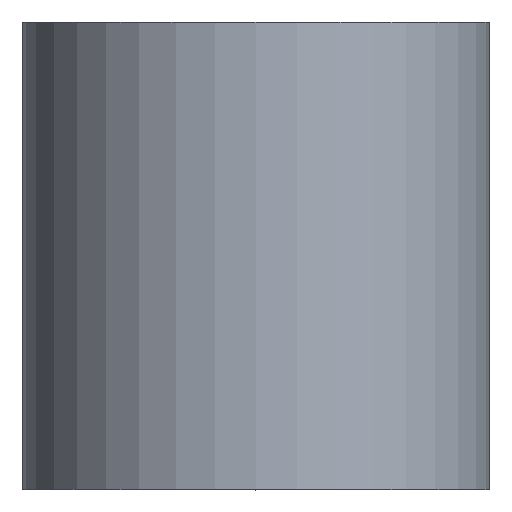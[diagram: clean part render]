
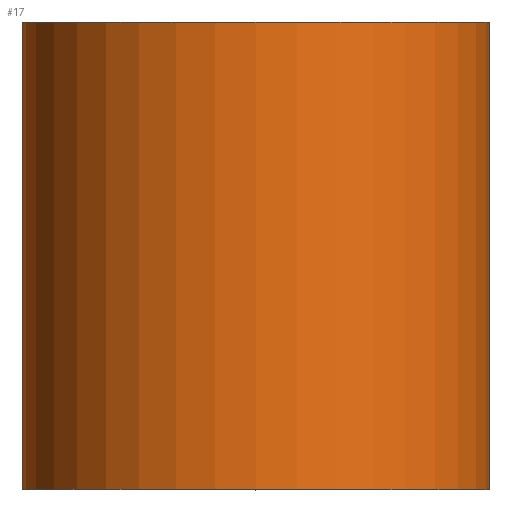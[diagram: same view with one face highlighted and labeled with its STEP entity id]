
A CAD part, top view. The second image highlights one B-rep face of the part: STEP entity #17.
In plain terms, the highlighted cylindrical face has radius 24 mm (diameter 48 mm), a full revolution.
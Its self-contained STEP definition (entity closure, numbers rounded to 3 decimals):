
#17 = ADVANCED_FACE('',(#18),#31,.T.);
#18 = FACE_BOUND('',#19,.T.);
#19 = EDGE_LOOP('',(#20,#54,#77,#104));
#20 = ORIENTED_EDGE('',*,*,#21,.F.);
#21 = EDGE_CURVE('',#22,#22,#24,.T.);
#22 = VERTEX_POINT('',#23);
#23 = CARTESIAN_POINT('',(24.,-24.,0.));
#24 = SURFACE_CURVE('',#25,(#30,#42),.PCURVE_S1.);
#25 = CIRCLE('',#26,24.);
#26 = AXIS2_PLACEMENT_3D('',#27,#28,#29);
#27 = CARTESIAN_POINT('',(0.,-24.,0.));
#28 = DIRECTION('',(0.,-1.,0.));
#29 = DIRECTION('',(1.,0.,0.));
#30 = PCURVE('',#31,#36);
#31 = CYLINDRICAL_SURFACE('',#32,24.);
#32 = AXIS2_PLACEMENT_3D('',#33,#34,#35);
#33 = CARTESIAN_POINT('',(0.,24.,0.));
#34 = DIRECTION('',(0.,-1.,0.));
#35 = DIRECTION('',(1.,0.,0.));
#36 = DEFINITIONAL_REPRESENTATION('',(#37),#41);
#37 = LINE('',#38,#39);
#38 = CARTESIAN_POINT('',(0.,48.));
#39 = VECTOR('',#40,1.);
#40 = DIRECTION('',(1.,0.));
#41 = ( GEOMETRIC_REPRESENTATION_CONTEXT(2) 
PARAMETRIC_REPRESENTATION_CONTEXT() REPRESENTATION_CONTEXT('2D SPACE',''
  ) );
#42 = PCURVE('',#43,#48);
#43 = PLANE('',#44);
#44 = AXIS2_PLACEMENT_3D('',#45,#46,#47);
#45 = CARTESIAN_POINT('',(0.,-24.,0.));
#46 = DIRECTION('',(0.,-1.,0.));
#47 = DIRECTION('',(1.,0.,0.));
#48 = DEFINITIONAL_REPRESENTATION('',(#49),#53);
#49 = CIRCLE('',#50,24.);
#50 = AXIS2_PLACEMENT_2D('',#51,#52);
#51 = CARTESIAN_POINT('',(0.,0.));
#52 = DIRECTION('',(1.,0.));
#53 = ( GEOMETRIC_REPRESENTATION_CONTEXT(2) 
PARAMETRIC_REPRESENTATION_CONTEXT() REPRESENTATION_CONTEXT('2D SPACE',''
  ) );
#54 = ORIENTED_EDGE('',*,*,#55,.F.);
#55 = EDGE_CURVE('',#56,#22,#58,.T.);
#56 = VERTEX_POINT('',#57);
#57 = CARTESIAN_POINT('',(24.,24.,0.));
#58 = SEAM_CURVE('',#59,(#63,#70),.PCURVE_S1.);
#59 = LINE('',#60,#61);
#60 = CARTESIAN_POINT('',(24.,24.,0.));
#61 = VECTOR('',#62,1.);
#62 = DIRECTION('',(0.,-1.,0.));
#63 = PCURVE('',#31,#64);
#64 = DEFINITIONAL_REPRESENTATION('',(#65),#69);
#65 = LINE('',#66,#67);
#66 = CARTESIAN_POINT('',(6.283,-0.));
#67 = VECTOR('',#68,1.);
#68 = DIRECTION('',(0.,1.));
#69 = ( GEOMETRIC_REPRESENTATION_CONTEXT(2) 
PARAMETRIC_REPRESENTATION_CONTEXT() REPRESENTATION_CONTEXT('2D SPACE',''
  ) );
#70 = PCURVE('',#31,#71);
#71 = DEFINITIONAL_REPRESENTATION('',(#72),#76);
#72 = LINE('',#73,#74);
#73 = CARTESIAN_POINT('',(0.,-0.));
#74 = VECTOR('',#75,1.);
#75 = DIRECTION('',(0.,1.));
#76 = ( GEOMETRIC_REPRESENTATION_CONTEXT(2) 
PARAMETRIC_REPRESENTATION_CONTEXT() REPRESENTATION_CONTEXT('2D SPACE',''
  ) );
#77 = ORIENTED_EDGE('',*,*,#78,.T.);
#78 = EDGE_CURVE('',#56,#56,#79,.T.);
#79 = SURFACE_CURVE('',#80,(#85,#92),.PCURVE_S1.);
#80 = CIRCLE('',#81,24.);
#81 = AXIS2_PLACEMENT_3D('',#82,#83,#84);
#82 = CARTESIAN_POINT('',(0.,24.,0.));
#83 = DIRECTION('',(0.,-1.,0.));
#84 = DIRECTION('',(1.,0.,0.));
#85 = PCURVE('',#31,#86);
#86 = DEFINITIONAL_REPRESENTATION('',(#87),#91);
#87 = LINE('',#88,#89);
#88 = CARTESIAN_POINT('',(0.,0.));
#89 = VECTOR('',#90,1.);
#90 = DIRECTION('',(1.,0.));
#91 = ( GEOMETRIC_REPRESENTATION_CONTEXT(2) 
PARAMETRIC_REPRESENTATION_CONTEXT() REPRESENTATION_CONTEXT('2D SPACE',''
  ) );
#92 = PCURVE('',#93,#98);
#93 = PLANE('',#94);
#94 = AXIS2_PLACEMENT_3D('',#95,#96,#97);
#95 = CARTESIAN_POINT('',(0.,24.,0.));
#96 = DIRECTION('',(0.,-1.,0.));
#97 = DIRECTION('',(1.,0.,0.));
#98 = DEFINITIONAL_REPRESENTATION('',(#99),#103);
#99 = CIRCLE('',#100,24.);
#100 = AXIS2_PLACEMENT_2D('',#101,#102);
#101 = CARTESIAN_POINT('',(0.,0.));
#102 = DIRECTION('',(1.,0.));
#103 = ( GEOMETRIC_REPRESENTATION_CONTEXT(2) 
PARAMETRIC_REPRESENTATION_CONTEXT() REPRESENTATION_CONTEXT('2D SPACE',''
  ) );
#104 = ORIENTED_EDGE('',*,*,#55,.T.);
